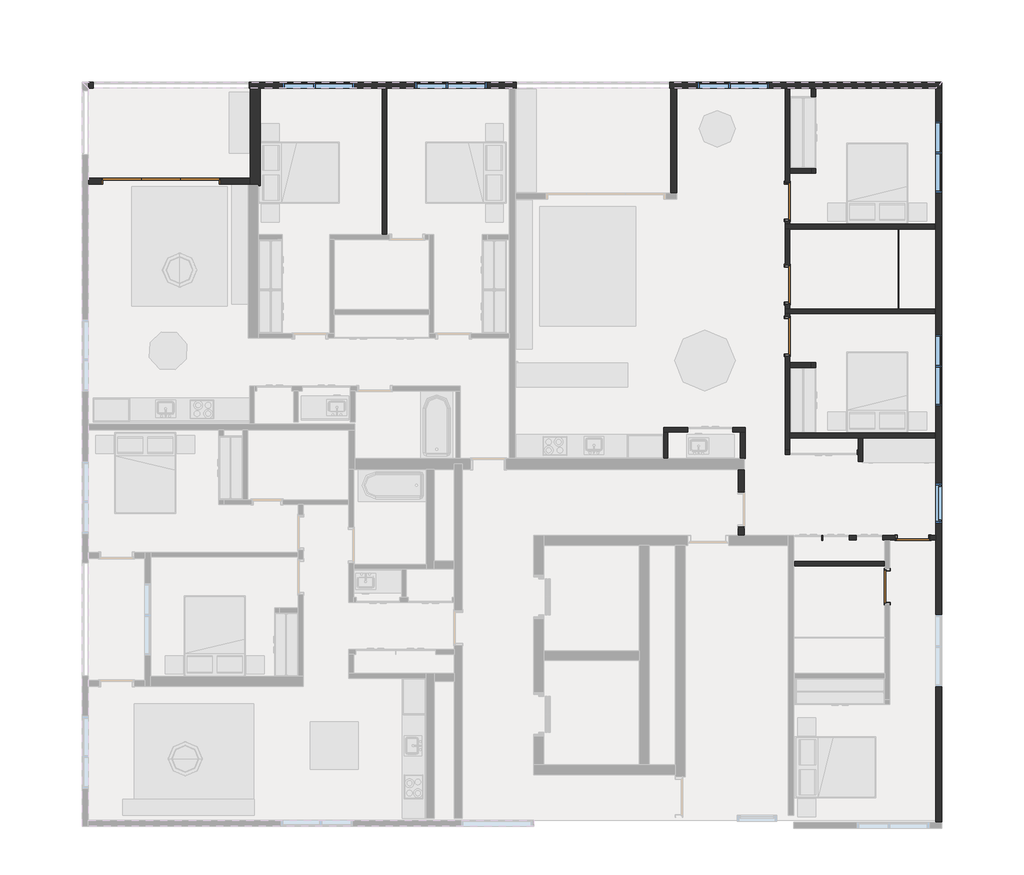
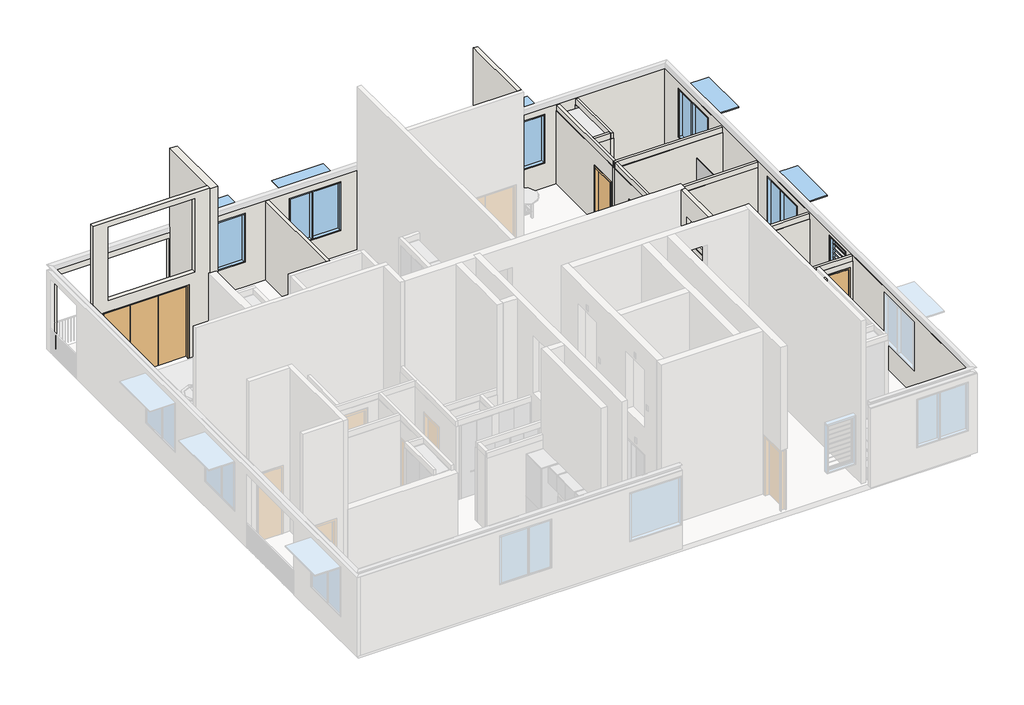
# One storey, part 3 of 5: 25 walls, 6 doors, 6 windows, 1 plate.
"""IFC4 building model written with IfcOpenShell, lengths in millimetres."""

from ifc_helpers import new_model, si_unit, frame, origin, place, context, project, spatial, polyline, outline, extrude, faceted_brep, transform, mapped, element, save
from components import bi_fold_dor_3_panel_3000_dd6e1ca5, swing_metal_frame_single_dor_5afc5809, swing_metal_frame_single_dor_3c4be974, swing_metal_frame_single_dor1_f98e1507, swing_metal_frame_single_dor1_9c4c5c1d, system_panel_glazed_1ea69d37, window_bottom_hung_window_bottom_hung_09912109, window_louvre_window_louvre_105a682d

model = new_model("IFC4")

# Units and contexts
model_context = context("Model", 3, world=origin())
ifc_project = project(units=[si_unit("LENGTHUNIT", "METRE", prefix="MILLI")], contexts=[model_context])

# Site, building, storey
site = spatial("IfcSite", under=ifc_project)
building = spatial("IfcBuilding", under=site)
storey = spatial("IfcBuildingStorey", under=building, Name="9階", Elevation=54700.0)

# Doors
placement = place(None, origin())
bi_fold_dor_3_panel_3000_shape = bi_fold_dor_3_panel_3000_dd6e1ca5(model_context)
element("IfcDoor", 1, ObjectType="Bi Fold_DOR : 3 Panel - 3000", at=placement, inside=storey, context=model_context, shape_type="MappedRepresentation", body=[
    mapped(bi_fold_dor_3_panel_3000_shape, transform((4344.6057353, 16224.7819979, 54700.0), x_axis=(1.0, 0.0, 0.0), y_axis=(0.0, 1.0, 0.0), z_axis=(0.0, 0.0, 1.0))),
])
swing_metal_frame_single_dor_shape = swing_metal_frame_single_dor_5afc5809(model_context)
element("IfcDoor", 2, ObjectType="Swing_Metal Frame_Single_DOR : 2040h x 920 (2110x1020 STUD)", at=placement, inside=storey, context=model_context, shape_type="MappedRepresentation", body=[
    mapped(swing_metal_frame_single_dor_shape, transform((20055.1062665, 12336.0199398, 54700.0), x_axis=(0.0, -1.0, 0.0), y_axis=(1.0, 0.0, 0.0), z_axis=(0.0, 0.0, 1.0))),
])
swing_metal_frame_single_dor_2_shape = swing_metal_frame_single_dor_3c4be974(model_context)
element("IfcDoor", 3, ObjectType="Swing_Metal Frame_Single_DOR : 2040h x 920 (2110x1020 STUD)", at=placement, inside=storey, context=model_context, shape_type="MappedRepresentation", body=[
    mapped(swing_metal_frame_single_dor_2_shape, transform((20055.1062665, 15718.9201216, 54700.0), x_axis=(0.0, 1.0, 0.0), y_axis=(-1.0, 0.0, 0.0), z_axis=(0.0, 0.0, 1.0))),
])
element("IfcDoor", 4, ObjectType="Swing_Metal Frame_Single_DOR : 2040h x 920 (2110x1020 STUD)", at=placement, inside=storey, context=model_context, shape_type="MappedRepresentation", body=[
    mapped(swing_metal_frame_single_dor_2_shape, transform((20055.1062665, 13634.0199398, 54700.0), x_axis=(0.0, 1.0, 0.0), y_axis=(-1.0, 0.0, 0.0), z_axis=(0.0, 0.0, 1.0))),
])
swing_metal_frame_single_dor1_shape = swing_metal_frame_single_dor1_f98e1507(model_context)
element("IfcDoor", 5, ObjectType="Swing_Metal Frame_Single_DOR1 : 2040h x 820 (2110x920 STUD)", at=placement, inside=storey, context=model_context, shape_type="MappedRepresentation", body=[
    mapped(swing_metal_frame_single_dor1_shape, transform((22560.4704973, 6052.9800602, 54700.0), x_axis=(0.0, -1.0, 0.0), y_axis=(1.0, 0.0, 0.0), z_axis=(0.0, 0.0, 1.0))),
])
swing_metal_frame_single_dor1_2_shape = swing_metal_frame_single_dor1_9c4c5c1d(model_context)
element("IfcDoor", 6, ObjectType="Swing_Metal Frame_Single_DOR1 : 2040h x 820 (2110x920 STUD)", at=placement, inside=storey, context=model_context, shape_type="MappedRepresentation", body=[
    mapped(swing_metal_frame_single_dor1_2_shape, transform((23204.5438088, 7282.5, 54700.0), x_axis=(-1.0, 0.0, 0.0), y_axis=(0.0, -1.0, 0.0), z_axis=(0.0, 0.0, 1.0))),
])

# Plate
system_panel_glazed_shape = system_panel_glazed_1ea69d37(model_context)
element("IfcPlate", 7, ObjectType="System Panel : Glazed", at=placement, inside=storey, context=model_context, shape_type="MappedRepresentation", body=[
    mapped(system_panel_glazed_shape, transform((22838.6171203, 14027.4700307, 54700.0), x_axis=(0.0, 1.0, 0.0), y_axis=(-1.0, 0.0, 0.0), z_axis=(0.0, 0.0, 1.0))),
])

# Walls
element("IfcWall", 8, ObjectType="Whte Paint Finish", at=placement, inside=storey, context=model_context, shape_type="SweptSolid", body=[
    extrude(outline(polyline([(7335.0, 60700.0), (8996.2680774, 60700.0), (8996.2680774, 54700.0), (8431.2680774, 54700.0), (8431.2680774, 56790.0), (7551.2680774, 56790.0), (7551.2680774, 54700.0), (7335.0, 54700.0), (7335.0, 60700.0)]), holes=[polyline([(8660.6340387, 57800.0), (8660.6340387, 59890.0), (7680.6340387, 59890.0), (7680.6340387, 57800.0), (8660.6340387, 57800.0)])]), frame((18821.1062665, 0.0, 0.0), z_axis=(1.0, 0.0, 0.0), x_axis=(0.0, 1.0, 0.0)), (0.0, 0.0, 1.0), 150.0),
])
element("IfcWall", 9, ObjectType="Whte Paint Finish", at=placement, inside=storey, context=model_context, shape_type="SweptSolid", body=[
    extrude(outline(polyline([(54700.0, 6564.6645991), (60700.0, 6564.6645991), (60700.0, 2519.6057353), (54700.0, 2519.6057353), (54700.0, 2844.6057353), (57400.0, 2844.6057353), (57400.0, 5844.6057353), (54700.0, 5844.6057353), (54700.0, 6564.6645991)]), holes=[polyline([(57800.0, 6044.6057353), (57800.0, 3044.6057353), (60500.0, 3044.6057353), (60500.0, 6044.6057353), (57800.0, 6044.6057353)])]), frame((0.0, 16149.7819979, 0.0), z_axis=(0.0, 1.0, 0.0), x_axis=(0.0, 0.0, 1.0)), (0.0, 0.0, 1.0), 150.0),
])
element("IfcWall", 10, ObjectType="Whte Paint Finish", at=placement, inside=storey, context=model_context, shape_type="SweptSolid", body=[
    extrude(outline(polyline([(17274.4454006, 18560.0), (17274.4454006, 15931.2357347), (17124.4454006, 15931.2357347), (17124.4454006, 18560.0), (17274.4454006, 18560.0)])), frame((0.0, 0.0, 54700.0), z_axis=(0.0, 0.0, 1.0), x_axis=(1.0, 0.0, 0.0)), (0.0, 0.0, 1.0), 6000.0),
])
element("IfcWall", 11, ObjectType="Whte Paint Finish", at=placement, inside=storey, context=model_context, shape_type="Brep", body=[
    faceted_brep([(23923.6171203, 18710.0, 57600.0), (2519.6057353, 18710.0, 57600.0), (2519.6057353, 18560.0, 57600.0), (23773.6171203, 18560.0, 57600.0), (23923.6171203, 18560.0, 57600.0), (10717.1904782, 18560.0, 55600.0), (12517.1904782, 18560.0, 55600.0), (12517.1904782, 18710.0, 55600.0), (10717.1904782, 18710.0, 55600.0), (12517.1904782, 18560.0, 57400.0), (12517.1904782, 18710.0, 57400.0), (10717.1904782, 18560.0, 57400.0), (10717.1904782, 18710.0, 57400.0), (7389.6645991, 18560.0, 55600.0), (9189.6645991, 18560.0, 55600.0), (9189.6645991, 18710.0, 55600.0), (7389.6645991, 18710.0, 55600.0), (9189.6645991, 18560.0, 57400.0), (9189.6645991, 18710.0, 57400.0), (7389.6645991, 18560.0, 57400.0), (7389.6645991, 18710.0, 57400.0), (17799.4454006, 18560.0, 55600.0), (19599.4454006, 18560.0, 55600.0), (19599.4454006, 18710.0, 55600.0), (17799.4454006, 18710.0, 55600.0), (19599.4454006, 18560.0, 57400.0), (19599.4454006, 18710.0, 57400.0), (17799.4454006, 18560.0, 57400.0), (17799.4454006, 18710.0, 57400.0), (2519.6057353, 18560.0, 54700.0), (2639.6057353, 18560.0, 54700.0), (2639.6057353, 18560.0, 57400.0), (6554.6645991, 18560.0, 57400.0), (6554.6645991, 18560.0, 54700.0), (13078.9954006, 18560.0, 54700.0), (13228.9954006, 18560.0, 54700.0), (13253.9954006, 18560.0, 54700.0), (13253.9954006, 18560.0, 57400.0), (17099.4454006, 18560.0, 57400.0), (17099.4454006, 18560.0, 54700.0), (17124.4454006, 18560.0, 54700.0), (17274.4454006, 18560.0, 54700.0), (23773.6171203, 18560.0, 54700.0), (23923.6171203, 18560.0, 54700.0), (23923.6171203, 18710.0, 54700.0), (17099.4454006, 18710.0, 54700.0), (17099.4454006, 18710.0, 57400.0), (13253.9954006, 18710.0, 57400.0), (13253.9954006, 18710.0, 54700.0), (6554.6645991, 18710.0, 54700.0), (6554.6645991, 18710.0, 57400.0), (2639.6057353, 18710.0, 57400.0), (2639.6057353, 18710.0, 54700.0), (2519.6057353, 18710.0, 54700.0)], [[[0, 1, 2, 3, 4]], [[5, 6, 7, 8]], [[6, 9, 10, 7]], [[9, 11, 12, 10]], [[11, 5, 8, 12]], [[13, 14, 15, 16]], [[14, 17, 18, 15]], [[17, 19, 20, 18]], [[19, 13, 16, 20]], [[21, 22, 23, 24]], [[22, 25, 26, 23]], [[25, 27, 28, 26]], [[27, 21, 24, 28]], [[4, 3, 2, 29, 30, 31, 32, 33, 34, 35, 36, 37, 38, 39, 40, 41, 42, 43], [5, 11, 9, 6], [13, 19, 17, 14], [21, 27, 25, 22]], [[1, 0, 44, 45, 46, 47, 48, 49, 50, 51, 52, 53], [8, 7, 10, 12], [16, 15, 18, 20], [24, 23, 26, 28]], [[30, 29, 53, 52]], [[33, 49, 48, 36, 35, 34]], [[44, 43, 42, 41, 40, 39, 45]], [[51, 31, 30, 52]], [[32, 50, 49, 33]], [[31, 51, 50, 32]], [[47, 37, 36, 48]], [[38, 46, 45, 39]], [[37, 47, 46, 38]], [[29, 2, 1, 53]], [[4, 43, 44, 0]]]),
])
element("IfcWall", 12, ObjectType="Whte Paint Finish", at=placement, inside=storey, context=model_context, shape_type="Brep", body=[
    faceted_brep([(23923.6171203, 140.0, 57600.0), (23923.6171203, 18560.0, 57600.0), (23773.6171203, 18560.0, 57600.0), (23773.6171203, 7335.0, 57600.0), (23773.6171203, 7243.0, 57600.0), (23773.6171203, 140.0, 57600.0), (23773.6171203, 17735.0, 55600.0), (23773.6171203, 15935.0, 55600.0), (23923.6171203, 15935.0, 55600.0), (23923.6171203, 17735.0, 55600.0), (23773.6171203, 15935.0, 57400.0), (23923.6171203, 15935.0, 57400.0), (23773.6171203, 17735.0, 57400.0), (23923.6171203, 17735.0, 57400.0), (23773.6171203, 12382.5, 55600.0), (23773.6171203, 10582.5, 55600.0), (23923.6171203, 10582.5, 55600.0), (23923.6171203, 12382.5, 55600.0), (23773.6171203, 10582.5, 57400.0), (23923.6171203, 10582.5, 57400.0), (23773.6171203, 12382.5, 57400.0), (23923.6171203, 12382.5, 57400.0), (23923.6171203, 140.0, 54700.0), (23923.6171203, 18560.0, 54700.0), (23923.6171203, 5346.2680774, 55600.0), (23923.6171203, 3546.2680774, 55600.0), (23923.6171203, 3546.2680774, 57400.0), (23923.6171203, 5346.2680774, 57400.0), (23923.6171203, 8646.2738694, 55700.0), (23923.6171203, 7646.2738694, 55700.0), (23923.6171203, 7646.2738694, 57500.0), (23923.6171203, 8646.2738694, 57500.0), (23773.6171203, 140.0, 54700.0), (23773.6171203, 18560.0, 54700.0), (23773.6171203, 7335.0, 54700.0), (23773.6171203, 7230.0, 54700.0), (23773.6171203, 5346.2680774, 55600.0), (23773.6171203, 5346.2680774, 57400.0), (23773.6171203, 3546.2680774, 57400.0), (23773.6171203, 3546.2680774, 55600.0), (23773.6171203, 8646.2738694, 55700.0), (23773.6171203, 8646.2738694, 57500.0), (23773.6171203, 7646.2738694, 57500.0), (23773.6171203, 7646.2738694, 55700.0)], [[[0, 1, 2, 3, 4, 5]], [[6, 7, 8, 9]], [[7, 10, 11, 8]], [[10, 12, 13, 11]], [[12, 6, 9, 13]], [[14, 15, 16, 17]], [[15, 18, 19, 16]], [[18, 20, 21, 19]], [[20, 14, 17, 21]], [[22, 23, 1, 0], [9, 8, 11, 13], [17, 16, 19, 21], [24, 25, 26, 27], [28, 29, 30, 31]], [[32, 5, 4, 3, 2, 33, 34, 35], [6, 12, 10, 7], [14, 20, 18, 15], [36, 37, 38, 39], [40, 41, 42, 43]], [[23, 22, 32, 35, 34, 33]], [[22, 0, 5, 32]], [[1, 23, 33, 2]], [[37, 36, 24, 27]], [[38, 37, 27, 26]], [[39, 38, 26, 25]], [[36, 39, 25, 24]], [[41, 40, 28, 31]], [[42, 41, 31, 30]], [[43, 42, 30, 29]], [[40, 43, 29, 28]]]),
])
element("IfcWall", 13, ObjectType="A2 - Acoustic Type 2", at=placement, inside=storey, context=model_context, shape_type="SweptSolid", body=[
    extrude(outline(polyline([(6824.6645991, 18560.0), (6824.6645991, 16123.7821797), (6574.6645991, 16123.7821797), (6574.6645991, 18560.0), (6824.6645991, 18560.0)])), frame((0.0, 0.0, 54700.0), z_axis=(0.0, 0.0, 1.0), x_axis=(1.0, 0.0, 0.0)), (0.0, 0.0, 1.0), 6000.0),
])
element("IfcWall", 14, ObjectType="P1 - Partition Type 1", at=placement, inside=storey, context=model_context, shape_type="Brep", body=[
    faceted_brep([(19996.1062665, 12906.0199398, 54700.0), (20114.1062665, 12906.0199398, 54700.0), (23748.6171203, 12906.0199398, 54700.0), (23748.6171203, 12906.0199398, 57400.0), (20114.1062665, 12906.0199398, 57400.0), (19996.1062665, 12906.0199398, 57400.0), (23748.6171203, 13024.0199398, 54700.0), (20114.1062665, 13024.0199398, 54700.0), (19996.1062665, 13024.0199398, 54700.0), (19996.1062665, 13024.0199398, 57400.0), (20114.1062665, 13024.0199398, 57400.0), (23748.6171203, 13024.0199398, 57400.0), (23748.6171203, 13011.0199398, 57400.0), (23748.6171203, 13011.0199398, 57600.0), (23748.6171203, 12919.0199398, 57600.0), (23748.6171203, 12919.0199398, 57400.0), (20101.1062665, 12919.0199398, 57400.0), (20009.1062665, 12919.0199398, 57400.0), (20009.1062665, 13011.0199398, 57400.0), (20101.1062665, 13011.0199398, 57400.0), (20009.1062665, 13011.0199398, 57600.0), (20101.1062665, 13011.0199398, 57600.0), (20101.1062665, 12919.0199398, 57600.0), (20009.1062665, 12919.0199398, 57600.0)], [[[0, 1, 2, 3, 4, 5]], [[6, 7, 8, 9, 10, 11]], [[2, 1, 0, 8, 7, 6]], [[3, 2, 6, 11, 12, 13, 14, 15]], [[11, 10, 9, 5, 4, 3, 15, 16, 17, 18, 19, 12]], [[13, 12, 19, 18, 20, 21]], [[15, 14, 22, 23, 17, 16]], [[14, 13, 21, 20, 23, 22]], [[0, 5, 9, 8]], [[18, 17, 23, 20]]]),
])
element("IfcWall", 15, ObjectType="P1 - Partition Type 1", at=placement, inside=storey, context=model_context, shape_type="Brep", body=[
    faceted_brep([(20114.1062665, 12906.0199398, 57400.0), (20114.1062665, 11674.0199398, 57400.0), (20114.1062665, 11556.0199398, 57400.0), (20114.1062665, 9906.0199398, 57400.0), (20114.1062665, 9788.0199398, 57400.0), (20114.1062665, 9487.0199398, 57400.0), (20114.1062665, 9487.0199398, 54700.0), (20114.1062665, 9788.0199398, 54700.0), (20114.1062665, 9906.0199398, 54700.0), (20114.1062665, 11556.0199398, 54700.0), (20114.1062665, 11674.0199398, 54700.0), (20114.1062665, 11846.0199398, 54700.0), (20114.1062665, 11846.0199398, 56790.0), (20114.1062665, 12826.0199398, 56790.0), (20114.1062665, 12826.0199398, 54700.0), (20114.1062665, 12906.0199398, 54700.0), (19996.1062665, 9487.0199398, 57400.0), (19996.1062665, 12906.0199398, 57400.0), (19996.1062665, 12906.0199398, 54700.0), (19996.1062665, 12826.0199398, 54700.0), (19996.1062665, 12826.0199398, 56790.0), (19996.1062665, 11846.0199398, 56790.0), (19996.1062665, 11846.0199398, 54700.0), (19996.1062665, 9487.0199398, 54700.0), (20009.1062665, 9487.0199398, 57400.0), (20009.1062665, 12906.0199398, 57400.0), (20009.1062665, 9474.0199398, 57400.0), (20009.1062665, 9474.0199398, 57600.0), (20009.1062665, 12919.0199398, 57600.0), (20009.1062665, 12919.0199398, 57400.0), (20101.1062665, 12906.0199398, 57400.0), (20101.1062665, 11661.0199398, 57400.0), (20101.1062665, 11569.0199398, 57400.0), (20101.1062665, 9893.0199398, 57400.0), (20101.1062665, 9801.0199398, 57400.0), (20101.1062665, 9487.0199398, 57400.0), (20101.1062665, 12919.0199398, 57400.0), (20101.1062665, 12919.0199398, 57600.0), (20101.1062665, 11661.0199398, 57600.0), (20101.1062665, 11569.0199398, 57600.0), (20101.1062665, 9893.0199398, 57600.0), (20101.1062665, 9801.0199398, 57600.0), (20101.1062665, 9474.0199398, 57600.0), (20101.1062665, 9474.0199398, 57400.0)], [[[0, 1, 2, 3, 4, 5, 6, 7, 8, 9, 10, 11, 12, 13, 14, 15]], [[16, 17, 18, 19, 20, 21, 22, 23]], [[18, 15, 14, 19]], [[6, 23, 22, 11, 10, 9, 8, 7]], [[17, 16, 24, 25]], [[25, 24, 26, 27, 28, 29]], [[5, 4, 3, 2, 1, 0, 30, 31, 32, 33, 34, 35]], [[35, 34, 33, 32, 31, 30, 36, 37, 38, 39, 40, 41, 42, 43]], [[0, 15, 18, 17, 25, 30]], [[37, 28, 27, 42, 41, 40, 39, 38]], [[36, 30, 25, 29]], [[28, 37, 36, 29]], [[21, 12, 11, 22]], [[12, 21, 20, 13]], [[13, 20, 19, 14]], [[6, 5, 35, 24, 16, 23]], [[26, 24, 35, 43]], [[42, 27, 26, 43]]]),
])
element("IfcWall", 16, ObjectType="P1 - Partition Type 1", at=placement, inside=storey, context=model_context, shape_type="Brep", body=[
    faceted_brep([(19996.1062665, 13024.0199398, 57400.0), (19996.1062665, 15030.9201216, 57400.0), (19996.1062665, 15030.9201216, 54700.0), (19996.1062665, 14124.0199398, 54700.0), (19996.1062665, 14124.0199398, 56790.0), (19996.1062665, 13144.0199398, 56790.0), (19996.1062665, 13144.0199398, 54700.0), (19996.1062665, 13024.0199398, 54700.0), (20114.1062665, 15030.9201216, 57400.0), (20114.1062665, 13024.0199398, 57400.0), (20114.1062665, 13024.0199398, 54700.0), (20114.1062665, 13144.0199398, 54700.0), (20114.1062665, 13144.0199398, 56790.0), (20114.1062665, 14124.0199398, 56790.0), (20114.1062665, 14124.0199398, 54700.0), (20114.1062665, 15030.9201216, 54700.0), (20101.1062665, 15030.9201216, 57400.0), (20101.1062665, 13024.0199398, 57400.0), (20101.1062665, 15043.9201216, 57400.0), (20101.1062665, 15043.9201216, 57600.0), (20101.1062665, 13011.0199398, 57600.0), (20101.1062665, 13011.0199398, 57400.0), (20009.1062665, 13024.0199398, 57400.0), (20009.1062665, 15030.9201216, 57400.0), (20009.1062665, 13011.0199398, 57400.0), (20009.1062665, 13011.0199398, 57600.0), (20009.1062665, 15043.9201216, 57600.0), (20009.1062665, 15043.9201216, 57400.0)], [[[0, 1, 2, 3, 4, 5, 6, 7]], [[8, 9, 10, 11, 12, 13, 14, 15]], [[2, 15, 14, 3]], [[10, 7, 6, 11]], [[9, 8, 16, 17]], [[17, 16, 18, 19, 20, 21]], [[1, 0, 22, 23]], [[23, 22, 24, 25, 26, 27]], [[2, 1, 23, 16, 8, 15]], [[18, 16, 23, 27]], [[26, 19, 18, 27]], [[0, 7, 10, 9, 17, 22]], [[19, 26, 25, 20]], [[24, 22, 17, 21]], [[20, 25, 24, 21]], [[13, 4, 3, 14]], [[4, 13, 12, 5]], [[5, 12, 11, 6]]]),
])
element("IfcWall", 17, ObjectType="P1 - Partition Type 1", at=placement, inside=storey, context=model_context, shape_type="Brep", body=[
    faceted_brep([(19996.1062665, 15030.9201216, 54700.0), (20114.1062665, 15030.9201216, 54700.0), (23748.6171203, 15030.9201216, 54700.0), (23748.6171203, 15030.9201216, 57400.0), (20114.1062665, 15030.9201216, 57400.0), (19996.1062665, 15030.9201216, 57400.0), (23748.6171203, 15148.9201216, 54700.0), (20114.1062665, 15148.9201216, 54700.0), (19996.1062665, 15148.9201216, 54700.0), (19996.1062665, 15148.9201216, 57400.0), (20114.1062665, 15148.9201216, 57400.0), (23748.6171203, 15148.9201216, 57400.0), (23748.6171203, 15135.9201216, 57400.0), (23748.6171203, 15135.9201216, 57600.0), (23748.6171203, 15043.9201216, 57600.0), (23748.6171203, 15043.9201216, 57400.0), (20101.1062665, 15043.9201216, 57400.0), (20009.1062665, 15043.9201216, 57400.0), (20009.1062665, 15135.9201216, 57400.0), (20101.1062665, 15135.9201216, 57400.0), (20009.1062665, 15135.9201216, 57600.0), (20101.1062665, 15135.9201216, 57600.0), (20101.1062665, 15043.9201216, 57600.0), (20009.1062665, 15043.9201216, 57600.0)], [[[0, 1, 2, 3, 4, 5]], [[6, 7, 8, 9, 10, 11]], [[2, 1, 0, 8, 7, 6]], [[3, 2, 6, 11, 12, 13, 14, 15]], [[11, 10, 9, 5, 4, 3, 15, 16, 17, 18, 19, 12]], [[13, 12, 19, 18, 20, 21]], [[15, 14, 22, 23, 17, 16]], [[14, 13, 21, 20, 23, 22]], [[0, 5, 9, 8]], [[18, 17, 23, 20]]]),
])
element("IfcWall", 18, ObjectType="P1 - Partition Type 1", at=placement, inside=storey, context=model_context, shape_type="Brep", body=[
    faceted_brep([(20773.1062665, 18535.0, 54700.0), (20773.1062665, 18535.0, 57400.0), (20773.1062665, 18348.9201216, 57400.0), (20773.1062665, 18348.9201216, 54700.0), (20773.1062665, 16430.9201216, 57400.0), (20773.1062665, 16430.9201216, 54700.0), (20773.1062665, 16548.9201216, 54700.0), (20773.1062665, 16548.9201216, 57400.0), (20655.1062665, 18535.0, 57400.0), (20655.1062665, 18535.0, 54700.0), (20655.1062665, 18348.9201216, 54700.0), (20655.1062665, 18348.9201216, 57400.0), (20655.1062665, 16430.9201216, 54700.0), (20655.1062665, 16430.9201216, 57400.0), (20655.1062665, 16548.9201216, 57400.0), (20655.1062665, 16548.9201216, 54700.0), (20668.1062665, 18535.0, 57400.0), (20668.1062665, 18535.0, 57600.0), (20760.1062665, 18535.0, 57600.0), (20760.1062665, 18535.0, 57400.0), (20668.1062665, 18348.9201216, 57400.0), (20760.1062665, 18348.9201216, 57400.0), (20760.1062665, 16443.9201216, 57400.0), (20668.1062665, 16443.9201216, 57400.0), (20668.1062665, 16535.9201216, 57400.0), (20668.1062665, 16548.9201216, 57400.0), (20760.1062665, 16548.9201216, 57400.0), (20668.1062665, 16443.9201216, 57600.0), (20668.1062665, 16535.9201216, 57600.0), (20760.1062665, 16443.9201216, 57600.0)], [[[0, 1, 2, 3]], [[4, 5, 6, 7]], [[8, 9, 10, 11]], [[12, 13, 14, 15]], [[9, 0, 3, 10]], [[5, 12, 15, 6]], [[1, 0, 9, 8, 16, 17, 18, 19]], [[16, 8, 11, 20]], [[1, 19, 21, 2]], [[22, 23, 24, 25, 14, 13, 4, 7, 26]], [[17, 16, 20, 25, 24, 23, 27, 28]], [[19, 18, 29, 22, 26, 21]], [[18, 17, 28, 27, 29]], [[20, 21, 26, 25]], [[21, 20, 11, 10, 3, 2]], [[25, 26, 7, 6, 15, 14]], [[5, 4, 13, 12]], [[23, 22, 29, 27]]]),
])
element("IfcWall", 19, ObjectType="P1 - Partition Type 1", at=placement, inside=storey, context=model_context, shape_type="Brep", body=[
    faceted_brep([(20114.1062665, 18535.0, 54700.0), (20114.1062665, 18535.0, 57400.0), (20114.1062665, 16548.9201216, 57400.0), (20114.1062665, 16430.9201216, 57400.0), (20114.1062665, 15148.9201216, 57400.0), (20114.1062665, 15148.9201216, 54700.0), (20114.1062665, 15228.9201216, 54700.0), (20114.1062665, 15228.9201216, 56790.0), (20114.1062665, 16208.9201216, 56790.0), (20114.1062665, 16208.9201216, 54700.0), (20114.1062665, 16430.9201216, 54700.0), (20114.1062665, 16548.9201216, 54700.0), (19996.1062665, 18535.0, 57400.0), (19996.1062665, 18535.0, 54700.0), (19996.1062665, 16208.9201216, 54700.0), (19996.1062665, 16208.9201216, 56790.0), (19996.1062665, 15228.9201216, 56790.0), (19996.1062665, 15228.9201216, 54700.0), (19996.1062665, 15148.9201216, 54700.0), (19996.1062665, 15148.9201216, 57400.0), (20009.1062665, 18535.0, 57400.0), (20009.1062665, 18535.0, 57600.0), (20101.1062665, 18535.0, 57600.0), (20101.1062665, 18535.0, 57400.0), (20009.1062665, 15148.9201216, 57400.0), (20009.1062665, 15135.9201216, 57400.0), (20009.1062665, 15135.9201216, 57600.0), (20101.1062665, 16535.9201216, 57400.0), (20101.1062665, 16443.9201216, 57400.0), (20101.1062665, 15148.9201216, 57400.0), (20101.1062665, 16535.9201216, 57600.0), (20101.1062665, 16443.9201216, 57600.0), (20101.1062665, 15135.9201216, 57600.0), (20101.1062665, 15135.9201216, 57400.0)], [[[0, 1, 2, 3, 4, 5, 6, 7, 8, 9, 10, 11]], [[12, 13, 14, 15, 16, 17, 18, 19]], [[13, 0, 11, 10, 9, 14]], [[5, 18, 17, 6]], [[1, 0, 13, 12, 20, 21, 22, 23]], [[12, 19, 24, 20]], [[20, 24, 25, 26, 21]], [[4, 3, 2, 1, 23, 27, 28, 29]], [[29, 28, 27, 23, 22, 30, 31, 32, 33]], [[22, 21, 26, 32, 31, 30]], [[5, 4, 29, 24, 19, 18]], [[25, 24, 29, 33]], [[32, 26, 25, 33]], [[8, 15, 14, 9]], [[15, 8, 7, 16]], [[16, 7, 6, 17]]]),
])
element("IfcWall", 20, ObjectType="P1 - Partition Type 1", at=placement, inside=storey, context=model_context, shape_type="Brep", body=[
    faceted_brep([(20114.1062665, 16430.9201216, 54700.0), (20655.1062665, 16430.9201216, 54700.0), (20655.1062665, 16430.9201216, 57400.0), (20114.1062665, 16430.9201216, 57400.0), (20655.1062665, 16548.9201216, 54700.0), (20114.1062665, 16548.9201216, 54700.0), (20114.1062665, 16548.9201216, 57400.0), (20655.1062665, 16548.9201216, 57400.0), (20114.1062665, 16535.9201216, 57400.0), (20655.1062665, 16535.9201216, 57400.0), (20101.1062665, 16535.9201216, 57400.0), (20101.1062665, 16535.9201216, 57600.0), (20668.1062665, 16535.9201216, 57600.0), (20668.1062665, 16535.9201216, 57400.0), (20655.1062665, 16443.9201216, 57400.0), (20114.1062665, 16443.9201216, 57400.0), (20668.1062665, 16443.9201216, 57400.0), (20668.1062665, 16443.9201216, 57600.0), (20101.1062665, 16443.9201216, 57600.0), (20101.1062665, 16443.9201216, 57400.0)], [[[0, 1, 2, 3]], [[4, 5, 6, 7]], [[1, 0, 5, 4]], [[7, 6, 8, 9]], [[9, 8, 10, 11, 12, 13]], [[3, 2, 14, 15]], [[15, 14, 16, 17, 18, 19]], [[0, 3, 15, 8, 6, 5]], [[10, 8, 15, 19]], [[18, 11, 10, 19]], [[2, 1, 4, 7, 9, 14]], [[18, 17, 12, 11]], [[16, 14, 9, 13]], [[12, 17, 16, 13]]]),
])
element("IfcWall", 21, ObjectType="P1 - Partition Type 1", at=placement, inside=storey, context=model_context, shape_type="Brep", body=[
    faceted_brep([(20114.1062665, 9788.0199398, 54700.0), (21830.6171203, 9788.0199398, 54700.0), (21948.6171203, 9788.0199398, 54700.0), (23748.6171203, 9788.0199398, 54700.0), (23748.6171203, 9788.0199398, 57400.0), (21948.6171203, 9788.0199398, 57400.0), (21830.6171203, 9788.0199398, 57400.0), (20114.1062665, 9788.0199398, 57400.0), (23748.6171203, 9906.0199398, 54700.0), (20114.1062665, 9906.0199398, 54700.0), (20114.1062665, 9906.0199398, 57400.0), (23748.6171203, 9906.0199398, 57400.0), (23748.6171203, 9893.0199398, 57400.0), (23748.6171203, 9893.0199398, 57600.0), (23748.6171203, 9801.0199398, 57600.0), (23748.6171203, 9801.0199398, 57400.0), (20114.1062665, 9893.0199398, 57400.0), (20101.1062665, 9893.0199398, 57400.0), (20101.1062665, 9893.0199398, 57600.0), (21935.6171203, 9801.0199398, 57400.0), (21843.6171203, 9801.0199398, 57400.0), (20114.1062665, 9801.0199398, 57400.0), (21935.6171203, 9801.0199398, 57600.0), (21843.6171203, 9801.0199398, 57600.0), (20101.1062665, 9801.0199398, 57600.0), (20101.1062665, 9801.0199398, 57400.0)], [[[0, 1, 2, 3, 4, 5, 6, 7]], [[8, 9, 10, 11]], [[3, 2, 1, 0, 9, 8]], [[4, 3, 8, 11, 12, 13, 14, 15]], [[11, 10, 16, 12]], [[13, 12, 16, 17, 18]], [[7, 6, 5, 4, 15, 19, 20, 21]], [[21, 20, 19, 15, 14, 22, 23, 24, 25]], [[24, 23, 22, 14, 13, 18]], [[0, 7, 21, 16, 10, 9]], [[17, 16, 21, 25]], [[24, 18, 17, 25]]]),
])
element("IfcWall", 22, ObjectType="P1 - Partition Type 1", at=placement, inside=storey, context=model_context, shape_type="Brep", body=[
    faceted_brep([(18996.1062665, 10047.2081475, 57400.0), (18996.1062665, 10047.2081475, 54700.0), (18683.9954006, 10047.2081475, 54700.0), (18683.9954006, 10047.2081475, 57400.0), (16953.9954006, 10047.2081475, 54700.0), (16953.9954006, 10047.2081475, 57400.0), (17553.9954006, 10047.2081475, 57400.0), (17553.9954006, 10047.2081475, 54700.0), (18996.1062665, 9929.2081475, 54700.0), (18996.1062665, 9929.2081475, 57400.0), (18878.1062665, 9929.2081475, 57400.0), (18683.9954006, 9929.2081475, 57400.0), (18683.9954006, 9929.2081475, 54700.0), (18878.1062665, 9929.2081475, 54700.0), (16953.9954006, 9929.2081475, 57400.0), (16953.9954006, 9929.2081475, 54700.0), (17058.9954006, 9929.2081475, 54700.0), (17553.9954006, 9929.2081475, 54700.0), (17553.9954006, 9929.2081475, 57400.0), (17058.9954006, 9929.2081475, 57400.0), (18983.1062665, 10034.2081475, 57400.0), (18983.1062665, 9942.2081475, 57400.0), (18891.1062665, 9942.2081475, 57400.0), (18683.9954006, 9942.2081475, 57400.0), (18683.9954006, 10034.2081475, 57400.0), (16953.9954006, 10034.2081475, 57400.0), (17553.9954006, 10034.2081475, 57400.0), (16953.9954006, 9942.2081475, 57400.0), (17553.9954006, 9942.2081475, 57400.0), (17045.9954006, 9942.2081475, 57400.0), (18983.1062665, 9942.2081475, 57600.0), (18891.1062665, 9942.2081475, 57600.0), (17045.9954006, 9942.2081475, 57600.0), (16953.9954006, 9942.2081475, 57600.0), (17553.9954006, 9942.2081475, 57500.0), (18683.9954006, 9942.2081475, 57500.0), (16953.9954006, 10034.2081475, 57600.0), (18983.1062665, 10034.2081475, 57600.0), (18683.9954006, 10034.2081475, 57500.0), (17553.9954006, 10034.2081475, 57500.0)], [[[0, 1, 2, 3]], [[4, 5, 6, 7]], [[8, 9, 10, 11, 12, 13]], [[14, 15, 16, 17, 18, 19]], [[1, 8, 13, 12, 2]], [[15, 4, 7, 17, 16]], [[20, 21, 22, 23, 11, 10, 9, 0, 3, 24]], [[5, 25, 26, 6]], [[27, 14, 19, 18, 28, 29]], [[30, 31, 32, 33, 27, 29, 28, 34, 35, 23, 22, 21]], [[36, 37, 20, 24, 38, 39, 26, 25]], [[38, 35, 34, 39]], [[35, 38, 24, 3, 2, 12, 11, 23]], [[39, 34, 28, 18, 17, 7, 6, 26]], [[1, 0, 9, 8]], [[21, 20, 37, 30]], [[5, 4, 15, 14, 27, 33, 36, 25]], [[33, 32, 31, 30, 37, 36]]]),
])
element("IfcWall", 23, ObjectType="P1 - Partition Type 1", at=placement, inside=storey, context=model_context, shape_type="Brep", body=[
    faceted_brep([(18878.1062665, 9929.2081475, 54700.0), (18878.1062665, 9266.2680774, 54700.0), (18878.1062665, 9266.2680774, 57400.0), (18878.1062665, 9929.2081475, 57400.0), (18996.1062665, 9266.2680774, 54700.0), (18996.1062665, 9929.2081475, 54700.0), (18996.1062665, 9929.2081475, 57400.0), (18996.1062665, 9266.2680774, 57400.0), (18983.1062665, 9266.2680774, 57400.0), (18983.1062665, 9266.2680774, 57600.0), (18891.1062665, 9266.2680774, 57600.0), (18891.1062665, 9266.2680774, 57400.0), (18983.1062665, 9929.2081475, 57400.0), (18983.1062665, 9942.2081475, 57400.0), (18983.1062665, 9942.2081475, 57600.0), (18891.1062665, 9929.2081475, 57400.0), (18891.1062665, 9942.2081475, 57600.0), (18891.1062665, 9942.2081475, 57400.0)], [[[0, 1, 2, 3]], [[4, 5, 6, 7]], [[1, 0, 5, 4]], [[2, 1, 4, 7, 8, 9, 10, 11]], [[7, 6, 12, 8]], [[9, 8, 12, 13, 14]], [[3, 2, 11, 15]], [[15, 11, 10, 16, 17]], [[16, 10, 9, 14]], [[0, 3, 15, 12, 6, 5]], [[13, 12, 15, 17]], [[16, 14, 13, 17]]]),
])
element("IfcWall", 24, ObjectType="P1 - Partition Type 1", at=placement, inside=storey, context=model_context, shape_type="Brep", body=[
    faceted_brep([(20655.1062665, 11674.0199398, 57400.0), (20655.1062665, 11674.0199398, 54700.0), (20655.1062665, 11556.0199398, 54700.0), (20655.1062665, 11556.0199398, 57400.0), (20773.1062665, 11674.0199398, 54700.0), (20773.1062665, 11674.0199398, 57400.0), (20773.1062665, 11556.0199398, 57400.0), (20773.1062665, 11556.0199398, 54700.0), (20760.1062665, 9906.0199398, 57400.0), (20760.1062665, 9906.0199398, 57600.0), (20668.1062665, 9906.0199398, 57600.0), (20668.1062665, 9906.0199398, 57400.0), (20668.1062665, 11661.0199398, 57400.0), (20760.1062665, 11661.0199398, 57400.0), (20760.1062665, 11556.0199398, 57400.0), (20668.1062665, 11556.0199398, 57400.0), (20668.1062665, 11569.0199398, 57400.0), (20760.1062665, 11661.0199398, 57600.0), (20668.1062665, 11569.0199398, 57600.0), (20668.1062665, 11661.0199398, 57600.0)], [[[0, 1, 2, 3]], [[4, 5, 6, 7]], [[1, 4, 7, 2]], [[8, 9, 10, 11]], [[12, 13, 14, 6, 5, 0, 3, 15, 16]], [[9, 8, 14, 13, 17]], [[11, 10, 18, 19, 12, 16, 15]], [[10, 9, 17, 19, 18]], [[15, 14, 8, 11]], [[14, 15, 3, 2, 7, 6]], [[1, 0, 5, 4]], [[13, 12, 19, 17]]]),
])
element("IfcWall", 25, ObjectType="P1 - Partition Type 1", at=placement, inside=storey, context=model_context, shape_type="Brep", body=[
    faceted_brep([(20114.1062665, 11556.0199398, 54700.0), (20655.1062665, 11556.0199398, 54700.0), (20655.1062665, 11556.0199398, 57400.0), (20114.1062665, 11556.0199398, 57400.0), (20655.1062665, 11674.0199398, 54700.0), (20114.1062665, 11674.0199398, 54700.0), (20114.1062665, 11674.0199398, 57400.0), (20655.1062665, 11674.0199398, 57400.0), (20114.1062665, 11661.0199398, 57400.0), (20655.1062665, 11661.0199398, 57400.0), (20101.1062665, 11661.0199398, 57400.0), (20101.1062665, 11661.0199398, 57600.0), (20668.1062665, 11661.0199398, 57600.0), (20668.1062665, 11661.0199398, 57400.0), (20655.1062665, 11569.0199398, 57400.0), (20114.1062665, 11569.0199398, 57400.0), (20668.1062665, 11569.0199398, 57400.0), (20668.1062665, 11569.0199398, 57600.0), (20101.1062665, 11569.0199398, 57600.0), (20101.1062665, 11569.0199398, 57400.0)], [[[0, 1, 2, 3]], [[4, 5, 6, 7]], [[1, 0, 5, 4]], [[7, 6, 8, 9]], [[9, 8, 10, 11, 12, 13]], [[3, 2, 14, 15]], [[15, 14, 16, 17, 18, 19]], [[2, 1, 4, 7, 9, 14]], [[18, 17, 12, 11]], [[16, 14, 9, 13]], [[12, 17, 16, 13]], [[0, 3, 15, 8, 6, 5]], [[10, 8, 15, 19]], [[18, 11, 10, 19]]]),
])
element("IfcWall", 26, ObjectType="P1 - Partition Type 1", at=placement, inside=storey, context=model_context, shape_type="Brep", body=[
    faceted_brep([(20246.1062665, 6572.9800602, 54700.0), (22501.4704973, 6572.9800602, 54700.0), (22501.4704973, 6572.9800602, 57400.0), (20246.1062665, 6572.9800602, 57400.0), (22501.4704973, 6690.9800602, 54700.0), (20246.1062665, 6690.9800602, 54700.0), (20246.1062665, 6690.9800602, 57400.0), (22501.4704973, 6690.9800602, 57400.0), (20246.1062665, 6585.9800602, 57400.0), (20246.1062665, 6585.9800602, 57600.0), (20246.1062665, 6677.9800602, 57600.0), (20246.1062665, 6677.9800602, 57400.0), (22501.4704973, 6677.9800602, 57400.0), (22514.4704973, 6677.9800602, 57600.0), (22514.4704973, 6677.9800602, 57400.0), (22501.4704973, 6585.9800602, 57400.0), (22514.4704973, 6585.9800602, 57400.0), (22514.4704973, 6585.9800602, 57600.0)], [[[0, 1, 2, 3]], [[4, 5, 6, 7]], [[1, 0, 5, 4]], [[0, 3, 8, 9, 10, 11, 6, 5]], [[7, 6, 11, 12]], [[12, 11, 10, 13, 14]], [[3, 2, 15, 8]], [[8, 15, 16, 17, 9]], [[2, 1, 4, 7, 12, 15]], [[13, 10, 9, 17]], [[16, 15, 12, 14]], [[13, 17, 16, 14]]]),
])
element("IfcWall", 27, ObjectType="P1 - Partition Type 1", at=placement, inside=storey, context=model_context, shape_type="Brep", body=[
    faceted_brep([(19996.1062665, 9369.0199398, 57400.0), (19996.1062665, 9369.0199398, 54700.0), (20114.1062665, 9369.0199398, 54700.0), (20114.1062665, 9369.0199398, 57400.0), (21830.6171203, 9369.0199398, 54700.0), (21830.6171203, 9369.0199398, 57400.0), (21814.1062665, 9369.0199398, 57400.0), (21814.1062665, 9369.0199398, 54700.0), (19996.1062665, 9487.0199398, 54700.0), (19996.1062665, 9487.0199398, 57400.0), (20114.1062665, 9487.0199398, 57400.0), (20114.1062665, 9487.0199398, 54700.0), (21830.6171203, 9487.0199398, 57400.0), (21830.6171203, 9487.0199398, 54700.0), (21814.1062665, 9487.0199398, 54700.0), (21814.1062665, 9487.0199398, 57400.0), (20009.1062665, 9382.0199398, 57400.0), (20009.1062665, 9474.0199398, 57400.0), (20101.1062665, 9474.0199398, 57400.0), (20114.1062665, 9474.0199398, 57400.0), (20114.1062665, 9382.0199398, 57400.0), (21830.6171203, 9474.0199398, 57400.0), (21814.1062665, 9474.0199398, 57400.0), (21830.6171203, 9382.0199398, 57400.0), (21814.1062665, 9382.0199398, 57400.0), (20009.1062665, 9474.0199398, 57600.0), (20101.1062665, 9474.0199398, 57600.0), (21843.6171203, 9474.0199398, 57600.0), (21843.6171203, 9474.0199398, 57400.0), (21814.1062665, 9474.0199398, 57500.0), (20114.1062665, 9474.0199398, 57500.0), (20009.1062665, 9382.0199398, 57600.0), (20114.1062665, 9382.0199398, 57500.0), (21814.1062665, 9382.0199398, 57500.0), (21843.6171203, 9382.0199398, 57400.0), (21843.6171203, 9382.0199398, 57600.0)], [[[0, 1, 2, 3]], [[4, 5, 6, 7]], [[8, 9, 10, 11]], [[12, 13, 14, 15]], [[1, 8, 11, 2]], [[13, 4, 7, 14]], [[16, 17, 18, 19, 10, 9, 0, 3, 20]], [[21, 12, 15, 22]], [[5, 23, 24, 6]], [[17, 25, 26, 27, 28, 21, 22, 29, 30, 19, 18]], [[31, 16, 20, 32, 33, 24, 23, 34, 35]], [[1, 0, 9, 8]], [[17, 16, 31, 25]], [[32, 30, 29, 33]], [[30, 32, 20, 3, 2, 11, 10, 19]], [[33, 29, 22, 15, 14, 7, 6, 24]], [[5, 4, 13, 12, 21, 23]], [[27, 26, 25, 31, 35]], [[34, 23, 21, 28]], [[27, 35, 34, 28]]]),
])
element("IfcWall", 28, ObjectType="P1 - Partition Type 1", at=placement, inside=storey, context=model_context, shape_type="Brep", body=[
    faceted_brep([(20916.1062665, 7217.0, 57400.0), (20916.1062665, 7217.0, 54700.0), (20939.4704973, 7217.0, 54700.0), (20939.4704973, 7217.0, 57400.0), (20916.1062665, 7335.0, 54700.0), (20916.1062665, 7335.0, 57400.0), (20939.4704973, 7335.0, 57400.0), (20939.4704973, 7335.0, 54700.0), (21609.4704973, 7322.0, 57600.0), (21609.4704973, 7243.0, 57600.0), (21609.4704973, 7230.0, 57600.0), (21609.4704973, 7230.0, 57500.0), (21609.4704973, 7322.0, 57500.0), (20246.1062665, 7230.0, 57600.0), (20246.1062665, 7322.0, 57600.0), (20246.1062665, 7322.0, 57500.0), (20246.1062665, 7230.0, 57500.0), (20916.1062665, 7322.0, 57400.0), (20939.4704973, 7322.0, 57400.0), (20939.4704973, 7322.0, 57500.0), (20916.1062665, 7322.0, 57500.0), (20916.1062665, 7230.0, 57400.0), (20939.4704973, 7230.0, 57400.0), (20916.1062665, 7230.0, 57500.0), (20939.4704973, 7230.0, 57500.0)], [[[0, 1, 2, 3]], [[4, 5, 6, 7]], [[1, 4, 7, 2]], [[8, 9, 10, 11, 12]], [[13, 14, 15, 16]], [[5, 17, 18, 6]], [[14, 8, 12, 19, 18, 17, 20, 15]], [[21, 0, 3, 22]], [[10, 13, 16, 23, 21, 22, 24, 11]], [[8, 14, 13, 10, 9]], [[20, 23, 16, 15]], [[23, 20, 17, 5, 4, 1, 0, 21]], [[24, 19, 12, 11]], [[19, 24, 22, 3, 2, 7, 6, 18]]]),
])
element("IfcWall", 29, ObjectType="P1 - Partition Type 1", at=placement, inside=storey, context=model_context, shape_type="Brep", body=[
    faceted_brep([(21830.6171203, 9788.0199398, 54700.0), (21830.6171203, 9487.0199398, 54700.0), (21830.6171203, 9369.0199398, 54700.0), (21830.6171203, 9188.0199398, 54700.0), (21830.6171203, 9188.0199398, 57400.0), (21830.6171203, 9369.0199398, 57400.0), (21830.6171203, 9487.0199398, 57400.0), (21830.6171203, 9788.0199398, 57400.0), (21948.6171203, 9188.0199398, 54700.0), (21948.6171203, 9788.0199398, 54700.0), (21948.6171203, 9788.0199398, 57400.0), (21948.6171203, 9188.0199398, 57400.0), (21935.6171203, 9188.0199398, 57400.0), (21935.6171203, 9188.0199398, 57600.0), (21843.6171203, 9188.0199398, 57600.0), (21843.6171203, 9188.0199398, 57400.0), (21935.6171203, 9788.0199398, 57400.0), (21935.6171203, 9801.0199398, 57400.0), (21935.6171203, 9801.0199398, 57600.0), (21843.6171203, 9382.0199398, 57400.0), (21843.6171203, 9474.0199398, 57400.0), (21843.6171203, 9788.0199398, 57400.0), (21843.6171203, 9382.0199398, 57600.0), (21843.6171203, 9474.0199398, 57600.0), (21843.6171203, 9801.0199398, 57600.0), (21843.6171203, 9801.0199398, 57400.0)], [[[0, 1, 2, 3, 4, 5, 6, 7]], [[8, 9, 10, 11]], [[3, 2, 1, 0, 9, 8]], [[4, 3, 8, 11, 12, 13, 14, 15]], [[11, 10, 16, 12]], [[13, 12, 16, 17, 18]], [[7, 6, 5, 4, 15, 19, 20, 21]], [[21, 20, 19, 15, 14, 22, 23, 24, 25]], [[24, 23, 22, 14, 13, 18]], [[0, 7, 21, 16, 10, 9]], [[17, 16, 21, 25]], [[24, 18, 17, 25]]]),
])
element("IfcWall", 30, ObjectType="P1 - Partition Type 1", at=placement, inside=storey, context=model_context, shape_type="SweptSolid", body=[
    extrude(outline(polyline([(9888.0156465, 14884.9903494), (9888.0156465, 18556.2517076), (10006.0156465, 18556.2517076), (10006.0156465, 14884.9903494), (9888.0156465, 14884.9903494)])), frame((0.0, 0.0, 54700.0), z_axis=(0.0, 0.0, 1.0), x_axis=(1.0, 0.0, 0.0)), (0.0, 0.0, 1.0), 2900.0),
])
element("IfcWall", 31, ObjectType="P2 - Partition Type 2", at=placement, inside=storey, context=model_context, shape_type="Brep", body=[
    faceted_brep([(17058.9954006, 9266.2680774, 54700.0), (17058.9954006, 9929.2081475, 54700.0), (17058.9954006, 9929.2081475, 57400.0), (17058.9954006, 9266.2680774, 57400.0), (16953.9954006, 9929.2081475, 54700.0), (16953.9954006, 9266.2680774, 54700.0), (16953.9954006, 9266.2680774, 57600.0), (16953.9954006, 9942.2081475, 57600.0), (16953.9954006, 9942.2081475, 57400.0), (16953.9954006, 9929.2081475, 57400.0), (17045.9954006, 9266.2680774, 57400.0), (17045.9954006, 9266.2680774, 57600.0), (17045.9954006, 9929.2081475, 57400.0), (17045.9954006, 9942.2081475, 57400.0), (17045.9954006, 9942.2081475, 57600.0)], [[[0, 1, 2, 3]], [[4, 5, 6, 7, 8, 9]], [[1, 0, 5, 4]], [[0, 3, 10, 11, 6, 5]], [[3, 2, 12, 10]], [[10, 12, 13, 14, 11]], [[2, 1, 4, 9, 12]], [[7, 6, 11, 14]], [[13, 12, 9, 8]], [[7, 14, 13, 8]]]),
])
element("IfcWall", 32, ObjectType="P2 - Partition Type 2", at=placement, inside=storey, context=model_context, shape_type="Brep", body=[
    faceted_brep([(21609.4704973, 7230.0, 57400.0), (21609.4704973, 7230.0, 54700.0), (21779.4704973, 7230.0, 54700.0), (21779.4704973, 7230.0, 57400.0), (23773.6171203, 7230.0, 57400.0), (22619.4704973, 7230.0, 57400.0), (22501.4704973, 7230.0, 57400.0), (22449.4704973, 7230.0, 57400.0), (22449.4704973, 7230.0, 54700.0), (22501.4704973, 7230.0, 54700.0), (22619.4704973, 7230.0, 54700.0), (22764.5438088, 7230.0, 54700.0), (22764.5438088, 7230.0, 57190.0), (23644.5438088, 7230.0, 57190.0), (23644.5438088, 7230.0, 54700.0), (23773.6171203, 7230.0, 54700.0), (21609.4704973, 7335.0, 54700.0), (21609.4704973, 7335.0, 57600.0), (23773.6171203, 7335.0, 57600.0), (23773.6171203, 7335.0, 54700.0), (23644.5438088, 7335.0, 54700.0), (23644.5438088, 7335.0, 57190.0), (22764.5438088, 7335.0, 57190.0), (22764.5438088, 7335.0, 54700.0), (22449.4704973, 7335.0, 54700.0), (22449.4704973, 7335.0, 57500.0), (21779.4704973, 7335.0, 57500.0), (21779.4704973, 7335.0, 54700.0), (21609.4704973, 7243.0, 57400.0), (21609.4704973, 7243.0, 57600.0), (21609.4704973, 7322.0, 57600.0), (21779.4704973, 7243.0, 57400.0), (23773.6171203, 7243.0, 57400.0), (22606.4704973, 7243.0, 57400.0), (22514.4704973, 7243.0, 57400.0), (22449.4704973, 7243.0, 57400.0), (23773.6171203, 7243.0, 57600.0), (22606.4704973, 7243.0, 57600.0), (22514.4704973, 7243.0, 57600.0), (21779.4704973, 7243.0, 57500.0), (22449.4704973, 7243.0, 57500.0)], [[[0, 1, 2, 3]], [[4, 5, 6, 7, 8, 9, 10, 11, 12, 13, 14, 15]], [[16, 17, 18, 19, 20, 21, 22, 23, 24, 25, 26, 27]], [[1, 16, 27, 2]], [[8, 24, 23, 11, 10, 9]], [[19, 15, 14, 20]], [[1, 0, 28, 29, 30, 17, 16]], [[28, 0, 3, 31]], [[7, 6, 5, 4, 32, 33, 34, 35]], [[36, 37, 38, 29, 28, 31, 39, 40, 35, 34, 33, 32]], [[25, 40, 39, 26]], [[26, 39, 31, 3, 2, 27]], [[40, 25, 24, 8, 7, 35]], [[22, 12, 11, 23]], [[12, 22, 21, 13]], [[13, 21, 20, 14]], [[4, 15, 19, 18, 36, 32]], [[18, 17, 30, 29, 38, 37, 36]]]),
])

# Windows
window_bottom_hung_window_bottom_hung_shape = window_bottom_hung_window_bottom_hung_09912109(model_context)
element("IfcWindow", 33, ObjectType="Window_Bottom Hung : Window_Bottom Hung", at=placement, inside=storey, context=model_context, shape_type="MappedRepresentation", body=[
    mapped(window_bottom_hung_window_bottom_hung_shape, transform((11617.1904782, 18635.0, 54600.0), x_axis=(1.0, 0.0, 0.0), y_axis=(0.0, 1.0, 0.0), z_axis=(0.0, 0.0, 1.0))),
])
element("IfcWindow", 34, ObjectType="Window_Bottom Hung : Window_Bottom Hung", at=placement, inside=storey, context=model_context, shape_type="MappedRepresentation", body=[
    mapped(window_bottom_hung_window_bottom_hung_shape, transform((8289.6645991, 18635.0, 54600.0), x_axis=(1.0, 0.0, 0.0), y_axis=(0.0, 1.0, 0.0), z_axis=(0.0, 0.0, 1.0))),
])
element("IfcWindow", 35, ObjectType="Window_Bottom Hung : Window_Bottom Hung", at=placement, inside=storey, context=model_context, shape_type="MappedRepresentation", body=[
    mapped(window_bottom_hung_window_bottom_hung_shape, transform((18699.4454006, 18635.0, 54600.0), x_axis=(1.0, 0.0, 0.0), y_axis=(0.0, 1.0, 0.0), z_axis=(0.0, 0.0, 1.0))),
])
element("IfcWindow", 36, ObjectType="Window_Bottom Hung : Window_Bottom Hung", at=placement, inside=storey, context=model_context, shape_type="MappedRepresentation", body=[
    mapped(window_bottom_hung_window_bottom_hung_shape, transform((23848.6171203, 16835.0, 54600.0), x_axis=(0.0, -1.0, 0.0), y_axis=(1.0, 0.0, 0.0), z_axis=(0.0, 0.0, 1.0))),
])
element("IfcWindow", 37, ObjectType="Window_Bottom Hung : Window_Bottom Hung", at=placement, inside=storey, context=model_context, shape_type="MappedRepresentation", body=[
    mapped(window_bottom_hung_window_bottom_hung_shape, transform((23848.6171203, 11482.5, 54600.0), x_axis=(0.0, -1.0, 0.0), y_axis=(1.0, 0.0, 0.0), z_axis=(0.0, 0.0, 1.0))),
])
window_louvre_window_louvre_shape = window_louvre_window_louvre_105a682d(model_context)
element("IfcWindow", 38, ObjectType="Window_Louvre : Window_Louvre", at=placement, inside=storey, context=model_context, shape_type="MappedRepresentation", body=[
    mapped(window_louvre_window_louvre_shape, transform((23848.6171203, 8146.2738694, 55100.0), x_axis=(0.0, -1.0, 0.0), y_axis=(1.0, 0.0, 0.0), z_axis=(0.0, 0.0, 1.0))),
])

save(model, "model.ifc")
